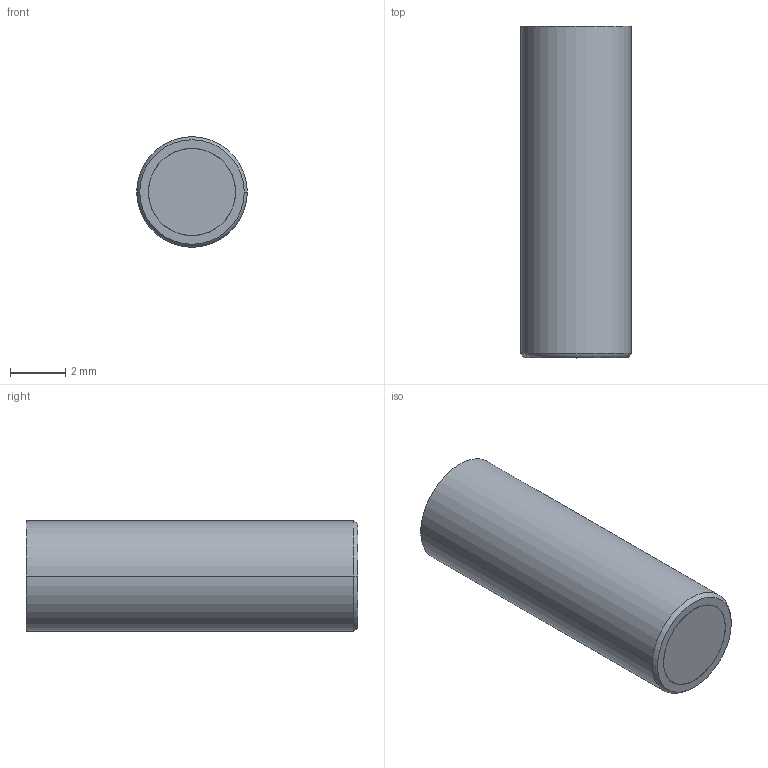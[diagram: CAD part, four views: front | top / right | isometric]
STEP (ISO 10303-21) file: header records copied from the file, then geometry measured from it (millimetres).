
FILE_DESCRIPTION (( 'STEP AP214' ), '1' );
FILE_NAME ('FA042200-SF.STEP', '2013-06-28T07:12:10', ( '' ), ( '' ), 'SwSTEP 2.0', 'SolidWorks 2011', '' );
FILE_SCHEMA (( 'AUTOMOTIVE_DESIGN' ));
Length unit declared in the file: millimetre
Products named in the file (6): FA042200-SF; FA 042200-2; FA 042200-3; FA 042200-1; IA 2275SF; 9FA 042212
Assembly tree (5 placements, depth 2):
  FA042200-SF
    FA 042200-3
    FA 042200-1
    IA 2275SF
    FA 042200-2
    9FA 042212
Bounding box: 4 x 12 x 4 mm (x, y, z)
Volume: 127.2 mm3; surface area: 504.5 mm2
Topology: 5 solids, 5 shells, 278 faces, 693 edges, 455 vertices
Faces by surface type: cylinder 134, plane 124, cone 14, bspline 4, torus 2
Entity records: 11101 total; most frequent: CARTESIAN_POINT 3882, DIRECTION 1537, ORIENTED_EDGE 1382, EDGE_CURVE 691, AXIS2_PLACEMENT_3D 572, VERTEX_POINT 455, VECTOR 393, LINE 393
